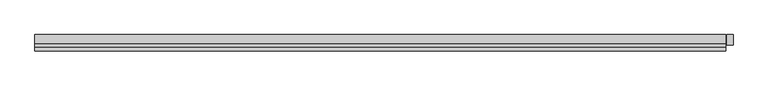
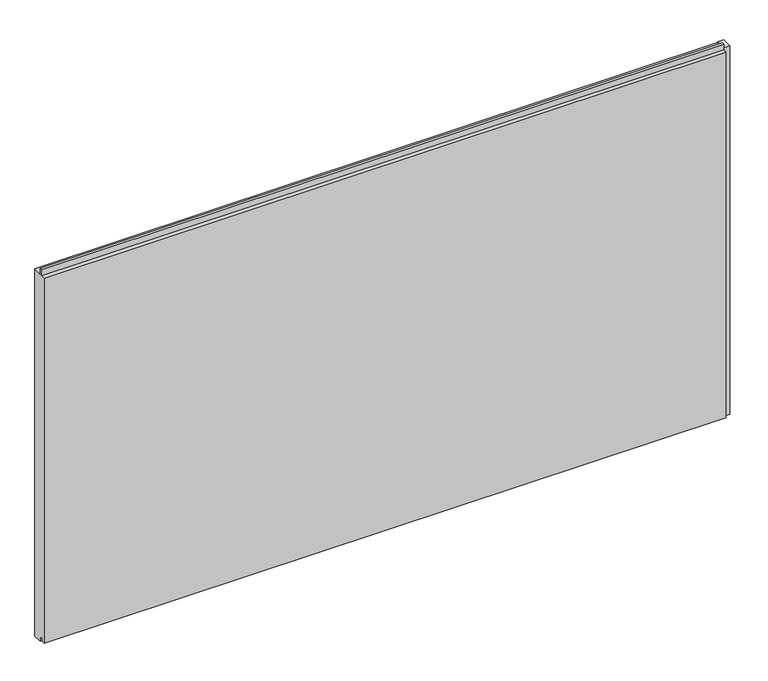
"""IFC4 building model written with IfcOpenShell, lengths in millimetres: plate geometry, Trimo_Qbiss Screen_Normal Panel-HORIZONTAL : HR - FB-F."""

from ifc_helpers import new_model, si_unit, frame, origin, place, context, project, spatial, polyline, outline, extrude, source, transform, mapped, element, save


def plate_5df4ee21(model_context):
    return source(origin(), model_context, "Body", "SweptSolid", [
        extrude(outline(polyline([(1094.5, 67.8978162), (1075.5, 67.8978162), (1075.5, 100.0), (1094.5, 100.0), (1094.5, 67.8978162)])), frame((0.0, 0.0, -1.0), z_axis=(0.0, 0.0, 1.0), x_axis=(1.0, 0.0, 0.0)), (0.0, 0.0, 1.0), 1200.0),
        extrude(outline(polyline([(71.0, 1196.0), (100.0, 1196.0), (100.0, 0.0), (72.0, 0.0), (72.0, 15.5), (62.0, 15.5), (62.0, 7.0), (50.0, 7.0), (50.0, 1196.0), (63.0, 1196.0), (63.0, 1214.5), (71.0, 1214.5), (71.0, 1196.0)])), frame((-1026.0, 0.0, 0.0), z_axis=(1.0, 0.0, 0.0), x_axis=(0.0, 1.0, 0.0)), (0.0, 0.0, 1.0), 2098.5),
    ])


if __name__ == "__main__":
    model = new_model("IFC4")
    model_context = context("Model", 3, world=origin())
    ifc_project = project(units=[si_unit("LENGTHUNIT", "METRE", prefix="MILLI")], contexts=[model_context])
    site = spatial("IfcSite", under=ifc_project)
    building = spatial("IfcBuilding", under=site)
    placement = place(None, origin())
    plate_shape = plate_5df4ee21(model_context)
    element("IfcPlate", 1, ObjectType="Trimo_Qbiss Screen_Normal Panel-HORIZONTAL : HR - FB-F", at=placement, inside=building, context=model_context, shape_type="MappedRepresentation", body=[
        mapped(plate_shape, transform((0.0, 0.0, 0.0), x_axis=(1.0, 0.0, 0.0), y_axis=(0.0, 1.0, 0.0), z_axis=(0.0, 0.0, 1.0))),
    ])
    save(model, "model.ifc")
